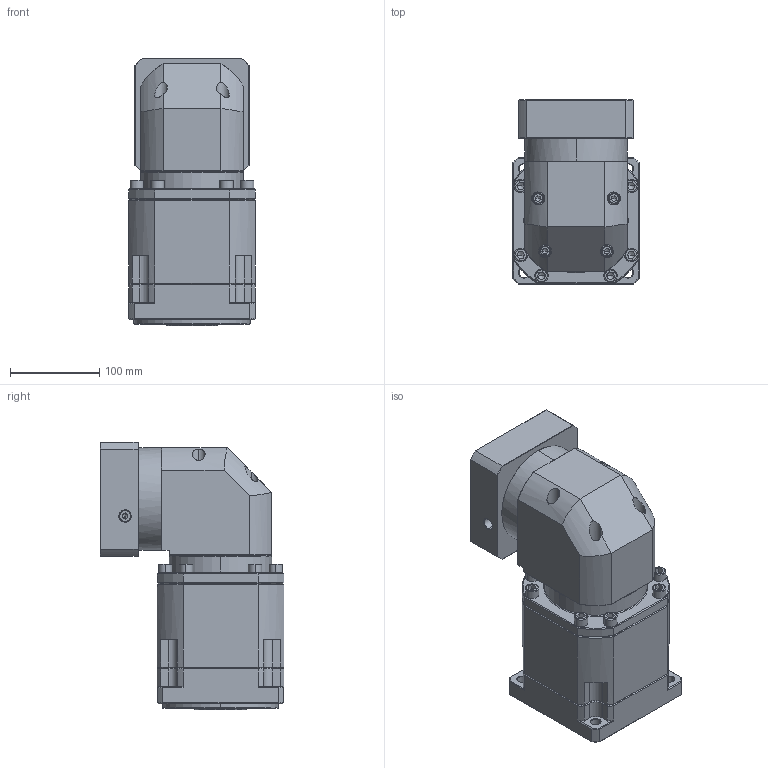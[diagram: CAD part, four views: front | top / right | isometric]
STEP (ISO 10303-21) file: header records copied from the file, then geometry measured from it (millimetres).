
FILE_DESCRIPTION (( 'STEP AP214' ), '1' );
FILE_NAME ('ZBR142A-K35-L3-P2-19-110-145-M8.step', '2023-09-02T08:14:05', ( '' ), ( '' ), 'SwSTEP 2.0', 'SolidWorks 2016', '' );
FILE_SCHEMA (( 'AUTOMOTIVE_DESIGN' ));
Length unit declared in the file: millimetre
Products named in the file (1): ZBR142A-K35-L3-P2-19-110-145-M8
Bounding box: 142 x 205.9 x 300.2 mm (x, y, z)
Volume: 5069624.7 mm3; surface area: 338842.6 mm2
Topology: 6 solids, 6 shells, 2528 faces, 6568 edges, 4165 vertices
Faces by surface type: plane 1225, cylinder 465, bspline 404, cone 390, torus 44
Entity records: 130291 total; most frequent: CARTESIAN_POINT 43833, ORIENTED_EDGE 13032, DIRECTION 10694, EDGE_CURVE 6516, VECTOR 4212, LINE 4212, VERTEX_POINT 4165, AXIS2_PLACEMENT_3D 3241
